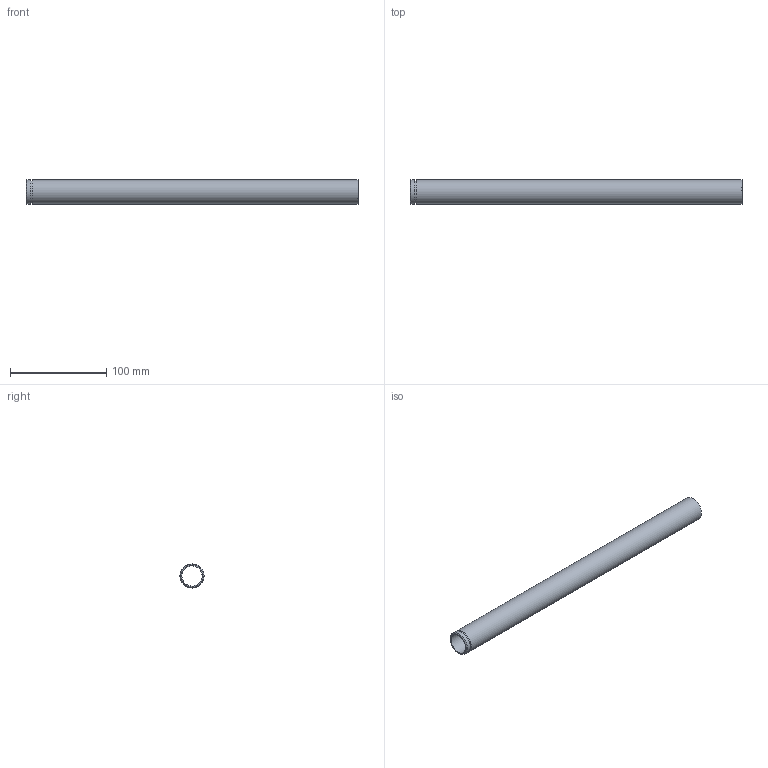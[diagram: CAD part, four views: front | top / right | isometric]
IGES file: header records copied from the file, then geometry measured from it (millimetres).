
Global section: file name: tube fixation pale v1 v1; native system: unknown; preprocessor: unknown; author: unknown; organization: unknown; date: 20160212.102847; units: millimetre
Bounding box: 345 x 25 x 25 mm (x, y, z)
Volume: 49771.4 mm3; surface area: 50196.3 mm2
Topology: 1 solids, 1 shells, 9 faces, 22 edges, 17 vertices
Faces by surface type: bspline 9
